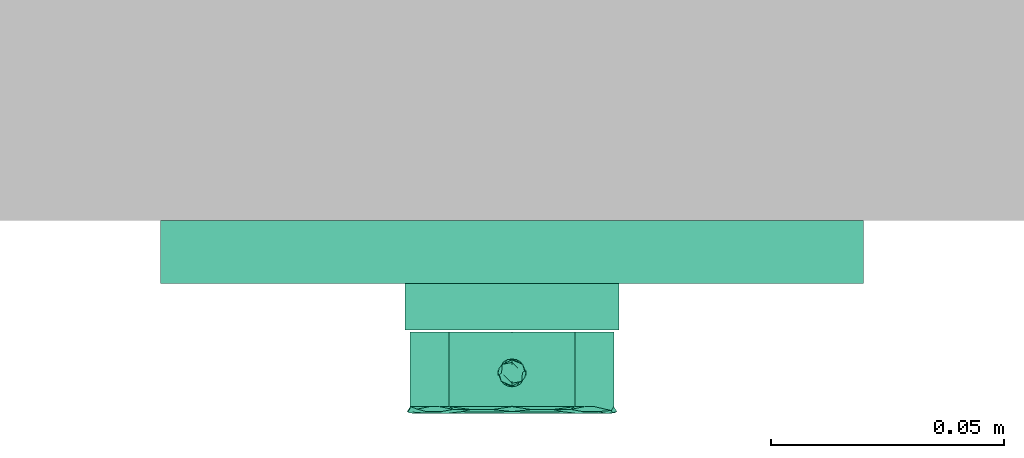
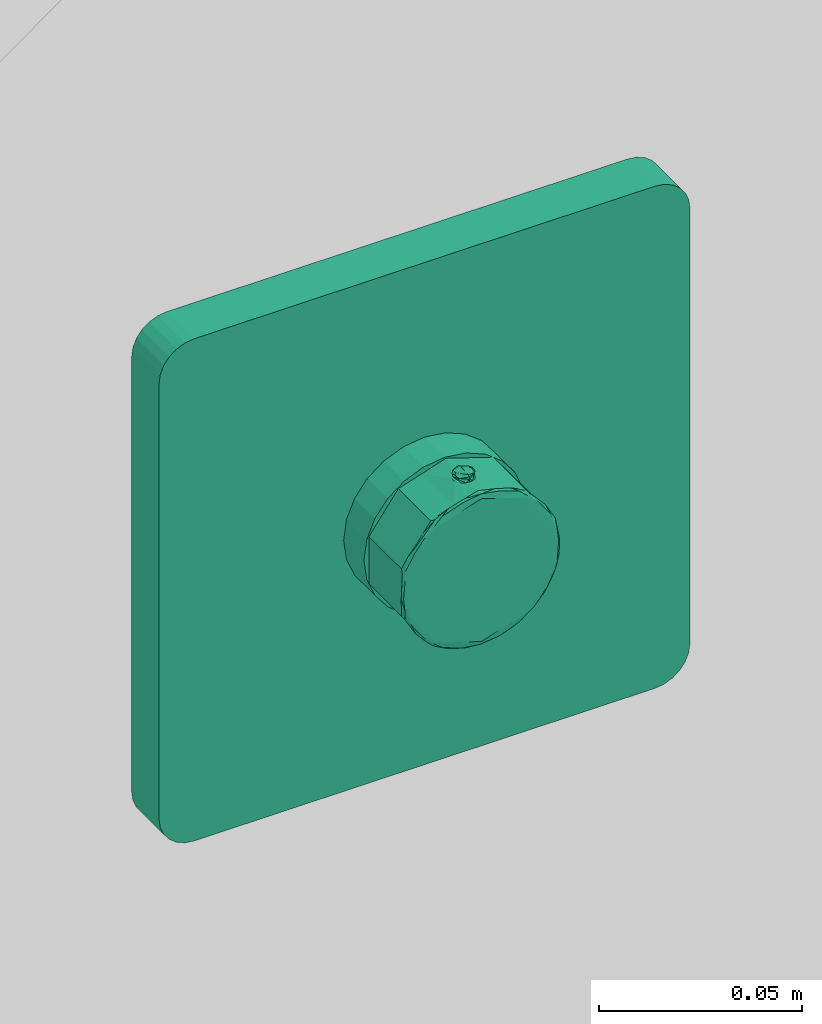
# One storey, part 2 of 2: 1 flow terminal.
"""IFC2X3 building model written with IfcOpenShell, lengths in millimetres."""

import ifcopenshell
import ifcopenshell.guid

model = None  # the IFC model being written
_history = None  # IfcOwnerHistory: only IFC2X3 demands one
_inside = {}  # id of a spatial element -> (the spatial element, [elements in it])
_under = {}  # id of a project, library or spatial element -> (it, [spatial elements below it])
_declared = {}  # id of a project -> (the project, [libraries it declares])
_typed = {}  # id of a type object -> (the type object, [elements of that type])
_made_of = {}  # id of a material, layer set ... -> (it, [elements and type objects made of it])


def new_model(schema):
    """Start an empty IFC model of exactly this schema.

    Asked for "IFC4X3", IfcOpenShell would pick the latest addendum, in which some entities
    have other attributes; the version numbers below select the first issue.
    IFC2X3 requires an IfcOwnerHistory on every rooted entity: one is made here for all.
    """
    global model, _history
    if schema == "IFC4X3":
        model = ifcopenshell.file(schema_version=(4, 3, 0, 0))
    else:
        model = ifcopenshell.file(schema=schema)
    _inside.clear()
    _under.clear()
    _declared.clear()
    _typed.clear()
    _made_of.clear()
    _history = None
    if model.schema == "IFC2X3":
        org = make("IfcOrganization", Name="unknown")
        user = make(
            "IfcPersonAndOrganization",
            ThePerson=make("IfcPerson", FamilyName="unknown"),
            TheOrganization=org,
        )
        app = make(
            "IfcApplication",
            ApplicationDeveloper=org,
            Version="unknown",
            ApplicationFullName="unknown",
            ApplicationIdentifier="unknown",
        )
        _history = make(
            "IfcOwnerHistory",
            OwningUser=user,
            OwningApplication=app,
            ChangeAction="ADDED",
            CreationDate=0,
        )
    return model


def make(cls, **values):
    """One entity of the class cls with the attributes given. An attribute that is None is left unset."""
    return model.create_entity(
        cls, **{name: value for name, value in values.items() if value is not None}
    )


def entity(cls, *values):
    """Any entity or typed value of the class cls, its attributes in the order of the schema. None: left unset."""
    e = model.create_entity(cls)
    for i, value in enumerate(values):
        if value is not None:
            e[i] = value
    return e


def rooted(cls, **values):
    """An entity with a GlobalId (a new one), such as an element, a storey or a relation."""
    return make(cls, GlobalId=ifcopenshell.guid.new(), OwnerHistory=_history, **values)


def si_unit(unit_type, name, prefix=None):
    """IfcSIUnit, for example si_unit("LENGTHUNIT", "METRE", prefix="MILLI")."""
    return make("IfcSIUnit", UnitType=unit_type, Prefix=prefix, Name=name)


def converted_unit(unit_type, name, factor, base, dimensions=None, offset=None):
    """IfcConversionBasedUnit, such as the inch: factor (a typed value) times the base unit."""
    return make(
        "IfcConversionBasedUnit"
        if offset is None
        else "IfcConversionBasedUnitWithOffset",
        ConversionOffset=offset,
        Dimensions=None
        if dimensions is None
        else entity("IfcDimensionalExponents", *dimensions),
        UnitType=unit_type,
        Name=name,
        ConversionFactor=make(
            "IfcMeasureWithUnit", ValueComponent=factor, UnitComponent=base
        ),
    )


def derived_unit(unit_type, elements):
    """IfcDerivedUnit: a product of units, each with its exponent."""
    return make(
        "IfcDerivedUnit",
        Elements=[
            make("IfcDerivedUnitElement", Unit=unit, Exponent=power)
            for unit, power in elements
        ],
        UnitType=unit_type,
    )


def assignment(units):
    """IfcUnitAssignment: the units of a project."""
    return None if units is None else make("IfcUnitAssignment", Units=units)


def point(xyz):
    """IfcCartesianPoint."""
    return None if xyz is None else make("IfcCartesianPoint", Coordinates=xyz)


def direction(xyz):
    """IfcDirection."""
    return None if xyz is None else make("IfcDirection", DirectionRatios=xyz)


def frame(location, z_axis=None, x_axis=None):
    """IfcAxis2Placement3D, a coordinate frame: its origin and axes. An axis left out is left unset."""
    return make(
        "IfcAxis2Placement3D",
        Location=point(location),
        Axis=direction(z_axis),
        RefDirection=direction(x_axis),
    )


def origin():
    """The frame at (0, 0, 0) with its axes left unset."""
    return frame((0.0, 0.0, 0.0))


def place(relative_to, where):
    """IfcLocalPlacement: puts the frame where relative to a parent placement (None: the world)."""
    return make(
        "IfcLocalPlacement", PlacementRelTo=relative_to, RelativePlacement=where
    )


def context(
    kind, dimensions, precision=None, world=None, true_north=None, identifier=None
):
    """IfcGeometricRepresentationContext, for example the 3D "Model" context."""
    return make(
        "IfcGeometricRepresentationContext",
        ContextIdentifier=identifier,
        ContextType=kind,
        CoordinateSpaceDimension=dimensions,
        Precision=precision,
        WorldCoordinateSystem=world,
        TrueNorth=true_north,
    )


def subcontext(parent, identifier, kind, view, scale=None):
    """IfcGeometricRepresentationSubContext, for example "Body" below "Model"."""
    return make(
        "IfcGeometricRepresentationSubContext",
        ContextIdentifier=identifier,
        ContextType=kind,
        ParentContext=parent,
        TargetScale=scale,
        TargetView=view,
    )


def project(units=None, contexts=None):
    """IfcProject with its units and contexts."""
    return rooted(
        "IfcProject",
        Name="project",
        RepresentationContexts=contexts,
        UnitsInContext=assignment(units),
    )


def spatial(cls, under=None, at=None, **own):
    """A site, building, storey or space (cls), placed at a placement, below another one or the project."""
    s = rooted(cls, ObjectPlacement=at, **own)
    if under is not None:
        _under.setdefault(under.id(), (under, []))[1].append(s)
    return s


def faces_of(points, faces, orient=None, outer=None):
    """IfcFace entities. A face is a list of loops; a loop is a list of indices into points, from 0.

    orient and outer hold one flag for each loop. By default every Orientation is true, the
    first loop of a face is its IfcFaceOuterBound and the others are IfcFaceBound.
    """
    made = []
    for i, loops in enumerate(faces):
        bounds = []
        for j, loop in enumerate(loops):
            is_outer = j == 0 if outer is None else outer[i][j]
            bounds.append(
                make(
                    "IfcFaceOuterBound" if is_outer else "IfcFaceBound",
                    Bound=make("IfcPolyLoop", Polygon=[points[k] for k in loop]),
                    Orientation=True if orient is None else orient[i][j],
                )
            )
        made.append(make("IfcFace", Bounds=bounds))
    return made


def face_set(faces, orient=None, outer=None):
    """The faces of one IfcConnectedFaceSet. surface_model builds it on its shared points."""
    return ("IfcConnectedFaceSet", faces, orient, outer)


def surface_model(cls, points, shells):
    """IfcFaceBasedSurfaceModel or IfcShellBasedSurfaceModel (cls): surfaces that need not close."""
    shared = [point(p) for p in points]
    made = [make(c, CfsFaces=faces_of(shared, fs, o, b)) for c, fs, o, b in shells]
    if cls == "IfcFaceBasedSurfaceModel":
        return make(cls, FbsmFaces=made)
    return make(cls, SbsmBoundary=made)


def shape(context_of_items, identifier, shape_type, items):
    """IfcShapeRepresentation: the items that make up one representation, for example the "Body"."""
    return make(
        "IfcShapeRepresentation",
        ContextOfItems=context_of_items,
        RepresentationIdentifier=identifier,
        RepresentationType=shape_type,
        Items=items,
    )


def source(mapping_origin, context_of_items, identifier, shape_type, items):
    """IfcRepresentationMap: a shape defined once, which mapped items show again and again."""
    return make(
        "IfcRepresentationMap",
        MappingOrigin=mapping_origin,
        MappedRepresentation=shape(context_of_items, identifier, shape_type, items),
    )


def transform(
    local_origin,
    x_axis=None,
    y_axis=None,
    z_axis=None,
    scale=None,
    scale2=None,
    scale3=None,
    uniform=True,
):
    """IfcCartesianTransformationOperator3D, or its non-uniform kind. x_axis, y_axis, z_axis: its Axis1, 2, 3."""
    if uniform:
        return make(
            "IfcCartesianTransformationOperator3D",
            Axis1=direction(x_axis),
            Axis2=direction(y_axis),
            LocalOrigin=point(local_origin),
            Scale=scale,
            Axis3=direction(z_axis),
        )
    return make(
        "IfcCartesianTransformationOperator3DnonUniform",
        Axis1=direction(x_axis),
        Axis2=direction(y_axis),
        LocalOrigin=point(local_origin),
        Scale=scale,
        Axis3=direction(z_axis),
        Scale2=scale2,
        Scale3=scale3,
    )


def mapped(mapping_source, mapping_target):
    """IfcMappedItem: shows the shape of a source again, moved by a transform."""
    return make(
        "IfcMappedItem", MappingSource=mapping_source, MappingTarget=mapping_target
    )


def material(Name=None, Category=None):
    """IfcMaterial."""
    return make("IfcMaterial", Name=Name, Category=Category)


def made_of(thing, what):
    """Note that an element or type object is made of a material, layer set ...; save() writes the relation."""
    if what is not None:
        _made_of.setdefault(what.id(), (what, []))[1].append(thing)
    return thing


def type_object(cls, material=None, **own):
    """A type object (cls), such as IfcWallType, which elements share."""
    return made_of(rooted(cls, **own), material)


def type_shapes(of_type, sources):
    """Give a type object the sources (RepresentationMaps) that its elements show as mapped items."""
    of_type.RepresentationMaps = sources


def element(
    cls,
    number,
    at=None,
    inside=None,
    cuts=None,
    type_object=None,
    material=None,
    context=None,
    identifier="Body",
    shape_type=None,
    held_by="IfcProductDefinitionShape",
    body=None,
    shapes=None,
    **own,
):
    """One element of the class cls, such as IfcWall. Its Tag is "e" and its number.

    at: its placement. inside: the storey or other place that contains it. cuts: it is an
    opening in that element (IfcRelVoidsElement). A single representation is given by context,
    identifier, shape_type and body (its items); several are given by shapes. held_by: the class
    of the entity that holds the representations. save() writes the other relations.
    """
    e = rooted(cls, Tag="e%d" % number, ObjectPlacement=at, **own)
    if body is not None:
        shapes = [shape(context, identifier, shape_type, body)]
    if shapes is not None:
        e.Representation = make(held_by, Representations=shapes)
    if inside is not None:
        _inside.setdefault(inside.id(), (inside, []))[1].append(e)
    if cuts is not None:
        rooted(
            "IfcRelVoidsElement", RelatingBuildingElement=cuts, RelatedOpeningElement=e
        )
    if type_object is not None:
        _typed.setdefault(type_object.id(), (type_object, []))[1].append(e)
    return made_of(e, material)


def aggregate(whole, parts):
    """IfcRelAggregates: a whole, such as a stair, and the parts it consists of."""
    return rooted("IfcRelAggregates", RelatingObject=whole, RelatedObjects=parts)


def save(model, path):
    """Write the relations noted so far, then the file.

    IfcRelAggregates (storeys below a building ...), IfcRelContainedInSpatialStructure (elements
    in a storey), IfcRelDefinesByType, IfcRelAssociatesMaterial and IfcRelDeclares: one each for
    every whole, place, type object, material and project.
    """
    for whole, parts in _under.values():
        aggregate(whole, parts)
    for where, things in _inside.values():
        rooted(
            "IfcRelContainedInSpatialStructure",
            RelatedElements=things,
            RelatingStructure=where,
        )
    for kind, things in _typed.values():
        rooted("IfcRelDefinesByType", RelatedObjects=things, RelatingType=kind)
    for what, things in _made_of.values():
        rooted("IfcRelAssociatesMaterial", RelatedObjects=things, RelatingMaterial=what)
    for by, libraries in _declared.values():
        rooted("IfcRelDeclares", RelatingContext=by, RelatedDefinitions=libraries)
    model.write(path)


model = new_model("IFC2X3")

# Units and contexts
model_context = context("Model", 3, precision=0.01, world=origin(), true_north=direction((6.12303176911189e-17, 1.0)))
body_context = subcontext(model_context, "Body", "Model", "MODEL_VIEW")
ifc_project = project(units=[si_unit("LENGTHUNIT", "METRE", prefix="MILLI"), si_unit("AREAUNIT", "SQUARE_METRE"), si_unit("VOLUMEUNIT", "CUBIC_METRE"), converted_unit("PLANEANGLEUNIT", "DEGREE", entity("IfcRatioMeasure", 0.0174532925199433), si_unit("PLANEANGLEUNIT", "RADIAN"), dimensions=[0, 0, 0, 0, 0, 0, 0]), si_unit("MASSUNIT", "GRAM", prefix="KILO"), derived_unit("MASSDENSITYUNIT", [(si_unit("MASSUNIT", "GRAM", prefix="KILO"), 1), (si_unit("LENGTHUNIT", "METRE"), -3)]), derived_unit("MOMENTOFINERTIAUNIT", [(si_unit("LENGTHUNIT", "METRE"), 4)]), si_unit("TIMEUNIT", "SECOND"), si_unit("FREQUENCYUNIT", "HERTZ"), si_unit("THERMODYNAMICTEMPERATUREUNIT", "DEGREE_CELSIUS"), derived_unit("THERMALTRANSMITTANCEUNIT", [(si_unit("MASSUNIT", "GRAM", prefix="KILO"), 1), (si_unit("THERMODYNAMICTEMPERATUREUNIT", "KELVIN"), -1), (si_unit("TIMEUNIT", "SECOND"), -3)]), derived_unit("VOLUMETRICFLOWRATEUNIT", [(si_unit("LENGTHUNIT", "METRE"), 3), (si_unit("TIMEUNIT", "SECOND"), -1)]), si_unit("ELECTRICCURRENTUNIT", "AMPERE"), si_unit("ELECTRICVOLTAGEUNIT", "VOLT"), si_unit("POWERUNIT", "WATT"), si_unit("FORCEUNIT", "NEWTON", prefix="KILO"), si_unit("ILLUMINANCEUNIT", "LUX"), si_unit("LUMINOUSFLUXUNIT", "LUMEN"), si_unit("LUMINOUSINTENSITYUNIT", "CANDELA"), derived_unit("USERDEFINED", [(si_unit("MASSUNIT", "GRAM", prefix="KILO"), -1), (si_unit("LENGTHUNIT", "METRE"), -2), (si_unit("TIMEUNIT", "SECOND"), 3), (si_unit("LUMINOUSFLUXUNIT", "LUMEN"), 1)]), derived_unit("LINEARVELOCITYUNIT", [(si_unit("LENGTHUNIT", "METRE"), 1), (si_unit("TIMEUNIT", "SECOND"), -1)]), si_unit("PRESSUREUNIT", "PASCAL"), derived_unit("USERDEFINED", [(si_unit("LENGTHUNIT", "METRE"), -2), (si_unit("MASSUNIT", "GRAM", prefix="KILO"), 1), (si_unit("TIMEUNIT", "SECOND"), -2)]), derived_unit("LINEARFORCEUNIT", [(si_unit("MASSUNIT", "GRAM", prefix="KILO"), 1), (si_unit("LENGTHUNIT", "METRE"), 1), (si_unit("TIMEUNIT", "SECOND"), -2), (si_unit("LENGTHUNIT", "METRE"), -1)]), derived_unit("PLANARFORCEUNIT", [(si_unit("MASSUNIT", "GRAM", prefix="KILO"), 1), (si_unit("LENGTHUNIT", "METRE"), 1), (si_unit("TIMEUNIT", "SECOND"), -2), (si_unit("LENGTHUNIT", "METRE"), -2)])], contexts=[model_context])

# Site, building, storey
site_placement = place(None, origin())
site = spatial("IfcSite", under=ifc_project, at=site_placement, Name="Default", CompositionType="ELEMENT")
building_placement = place(site_placement, origin())
building = spatial("IfcBuilding", under=site, at=building_placement, CompositionType="ELEMENT")
storey_placement = place(building_placement, origin())
storey = spatial("IfcBuildingStorey", under=building, at=storey_placement, Name="Level 1", CompositionType="ELEMENT", Elevation=0.0)

# Flow terminal
ifc_material = material(Name="Black")
distribution_element_type = type_object("IfcDistributionElementType", Name="FFAS0930-709440BF0_REVIT:Conceal Thermostatic Mixer with T_MB", material=ifc_material)
shared_shape = source(origin(), body_context, "Body", "SurfaceModel", [
    surface_model("IfcFaceBasedSurfaceModel", [(97.0138565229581, 13.5000000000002, 65.5952722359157), (99.3115662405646, 13.5000000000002, 71.1424341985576), (100.095272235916, 13.5000000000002, 77.0952722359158), (99.3115662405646, 13.5000000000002, 83.0481102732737), (97.0138565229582, 13.5000000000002, 88.5952722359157), (93.3587282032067, 13.5000000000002, 93.3587282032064), (88.5952722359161, 13.5000000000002, 97.0138565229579), (83.048110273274, 13.5000000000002, 99.3115662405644), (77.0952722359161, 13.5000000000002, 100.095272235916), (71.1424341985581, 13.5000000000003, 99.3115662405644), (65.595272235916, 13.5000000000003, 97.013856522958), (60.8318162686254, 13.5000000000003, 93.3587282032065), (57.1766879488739, 13.5000000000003, 88.5952722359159), (54.8789782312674, 13.5000000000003, 83.0481102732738), (54.095272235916, 13.5000000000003, 77.0952722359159), (54.8789782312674, 13.5000000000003, 71.1424341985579), (57.1766879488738, 13.5000000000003, 65.5952722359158), (60.8318162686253, 13.5000000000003, 60.8318162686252), (65.5952722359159, 13.5000000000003, 57.1766879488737), (71.1424341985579, 13.5000000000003, 54.8789782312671), (77.0952722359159, 13.5000000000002, 54.0952722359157), (83.0481102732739, 13.5000000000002, 54.8789782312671), (88.595272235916, 13.5000000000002, 57.1766879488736), (93.3587282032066, 13.5000000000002, 60.8318162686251), (77.0952722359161, 23.5000000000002, 100.095272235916), (83.0481102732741, 23.5000000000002, 99.3115662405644), (88.5952722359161, 23.5000000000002, 97.0138565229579), (93.3587282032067, 23.5000000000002, 93.3587282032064), (97.0138565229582, 23.5000000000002, 88.5952722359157), (99.3115662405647, 23.5000000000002, 83.0481102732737), (100.095272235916, 23.5000000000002, 77.0952722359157), (99.3115662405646, 23.5000000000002, 71.1424341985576), (97.0138565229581, 23.5000000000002, 65.5952722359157), (93.3587282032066, 23.5000000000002, 60.8318162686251), (88.595272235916, 23.5000000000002, 57.1766879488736), (83.0481102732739, 23.5000000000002, 54.8789782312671), (77.095272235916, 23.5000000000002, 54.0952722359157), (71.142434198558, 23.5000000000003, 54.8789782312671), (65.595272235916, 23.5000000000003, 57.1766879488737), (60.8318162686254, 23.5000000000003, 60.8318162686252), (57.1766879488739, 23.5000000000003, 65.5952722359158), (54.8789782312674, 23.5000000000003, 71.1424341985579), (54.095272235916, 23.5000000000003, 77.0952722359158), (54.8789782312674, 23.5000000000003, 83.0481102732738), (57.176687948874, 23.5000000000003, 88.5952722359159), (60.8318162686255, 23.5000000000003, 93.3587282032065), (65.5952722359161, 23.5000000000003, 97.013856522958), (71.1424341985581, 23.5000000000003, 99.3115662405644), (152.595272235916, 0.0, 11.5952722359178), (152.595272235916, 0.0, 142.595272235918), (152.254530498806, 0.0, 145.183462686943), (151.25552627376, 0.0, 147.595272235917), (149.666340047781, 0.0, 149.666340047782), (147.595272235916, 0.0, 151.255526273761), (145.183462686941, 0.0, 152.254530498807), (142.595272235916, 0.0, 152.595272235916), (11.595272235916, 0.0, 152.595272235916), (9.00708178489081, 0.0, 152.254530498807), (6.59527223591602, 0.0, 151.25552627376), (4.52420442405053, 0.0, 149.666340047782), (2.93501819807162, 0.0, 147.595272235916), (1.93601397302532, 0.0, 145.183462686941), (1.595272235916, 0.0, 142.595272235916), (1.595272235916, 0.0, 11.5952722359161), (1.93601397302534, 0.0, 9.00708178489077), (2.93501819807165, 0.0, 6.59527223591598), (4.52420442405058, 0.0, 4.52420442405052), (6.59527223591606, 0.0, 2.93501819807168), (9.00708178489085, 0.0, 1.93601397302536), (11.5952722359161, 0.0, 1.59527223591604), (142.595272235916, 0.0, 1.59527223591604), (145.183462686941, 0.0, 1.9360139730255), (147.595272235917, 0.0, 2.93501819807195), (149.666340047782, 0.0, 4.5242044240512), (151.255526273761, 0.0, 6.59527223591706), (152.254530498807, 0.0, 9.00708178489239), (152.595272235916, 13.5, 142.595272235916), (152.595272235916, 13.5, 11.5952722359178), (152.254530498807, 13.5, 9.00708178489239), (151.255526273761, 13.5, 6.59527223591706), (149.666340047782, 13.5, 4.5242044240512), (147.595272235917, 13.5, 2.93501819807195), (145.183462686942, 13.5, 1.9360139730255), (142.595272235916, 13.5, 1.5952722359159), (11.5952722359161, 13.5000000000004, 1.59527223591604), (9.00708178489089, 13.5000000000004, 1.93601397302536), (6.5952722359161, 13.5000000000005, 2.93501819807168), (4.52420442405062, 13.5000000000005, 4.52420442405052), (2.93501819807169, 13.5000000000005, 6.59527223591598), (1.93601397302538, 13.5000000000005, 9.00708178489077), (1.59527223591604, 13.5000000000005, 11.5952722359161), (1.59527223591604, 13.5000000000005, 142.595272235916), (1.93601397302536, 13.5000000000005, 145.183462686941), (2.93501819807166, 13.5000000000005, 147.595272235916), (4.52420442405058, 13.5000000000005, 149.666340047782), (6.59527223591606, 13.5000000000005, 151.25552627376), (9.00708178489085, 13.5000000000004, 152.254530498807), (11.5952722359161, 13.5000000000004, 152.595272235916), (142.595272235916, 13.5, 152.595272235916), (145.183462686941, 13.5, 152.254530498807), (147.595272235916, 13.5, 151.255526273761), (149.666340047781, 13.5, 149.666340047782), (151.25552627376, 13.5, 147.595272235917), (152.254530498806, 13.5, 145.183462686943), (77.0952731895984, 31.6203363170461, 102.02605398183), (74.8528501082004, 32.7500002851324, 101.819380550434), (77.0952731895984, 30.5075772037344, 101.819380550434), (77.0952731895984, 34.9924233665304, 101.819380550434), (77.0952731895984, 34.4856501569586, 101.913488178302), (77.0952731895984, 32.7500002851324, 102.095308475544), (77.0952731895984, 32.2355240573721, 102.063769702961), (77.0952731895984, 33.8796642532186, 102.02605398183), (79.3376962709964, 32.7500002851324, 101.819380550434), (77.0952731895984, 31.0143504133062, 101.913488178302), (77.0952731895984, 33.2644765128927, 102.063769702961), (74.4002887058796, 32.3520231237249, 101.538729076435), (74.7908898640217, 30.9321334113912, 101.203575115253), (77.0952731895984, 29.9618256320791, 101.464605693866), (77.0952731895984, 35.7499988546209, 100.8491636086), (74.3459588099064, 33.7447705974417, 101.23220708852), (77.0952731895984, 35.5381658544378, 101.464605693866), (77.0952731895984, 30.2799203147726, 101.671351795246), (77.0952731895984, 29.7500017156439, 100.8491636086), (75.0129602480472, 34.5649421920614, 101.496435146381), (74.0952746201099, 32.7500002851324, 100.8491636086), (79.7902485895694, 33.1479774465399, 101.538729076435), (79.3996565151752, 34.5678671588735, 101.203575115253), (79.8445875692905, 31.7552299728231, 101.23220708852), (77.0952731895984, 35.2200802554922, 101.671351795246), (79.1775861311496, 30.9350583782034, 101.496435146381), (80.095271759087, 32.7500002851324, 100.8491636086), (77.0952731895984, 29.7500017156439, 100.09528520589), (76.0685280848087, 29.9311679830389, 100.072321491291), (75.1663029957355, 30.4523752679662, 100.014258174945), (74.4977482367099, 34.2509533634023, 99.9481284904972), (74.4976210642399, 31.249274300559, 99.9481284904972), (74.1408386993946, 32.2290927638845, 99.9047445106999), (74.1409749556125, 33.2716617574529, 99.9047445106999), (76.068709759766, 35.5688961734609, 100.072321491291), (77.0952731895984, 35.7499988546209, 100.09528520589), (75.1673294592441, 35.0484791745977, 100.014330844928), (78.1218366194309, 35.5688961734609, 100.072321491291), (79.0232169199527, 35.0484791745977, 100.014330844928), (79.0242433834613, 30.4523752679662, 100.014258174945), (79.6927981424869, 34.2509533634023, 99.9481284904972), (80.0495714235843, 33.2716617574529, 99.9047445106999), (79.692925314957, 31.249274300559, 99.9481284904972), (78.1220182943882, 29.9311679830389, 100.072321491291), (80.0496985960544, 32.2290927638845, 99.9047445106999), (77.0952722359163, 41.4999999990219, 55.5952722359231), (64.4578893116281, 41.4999999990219, 59.7014068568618), (56.6475571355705, 41.4999999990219, 70.4514068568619), (56.6475571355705, 41.4999999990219, 83.7391376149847), (64.4578893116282, 41.4999999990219, 94.4891376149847), (77.0952722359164, 41.4999999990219, 98.5952722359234), (77.0952722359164, 41.4999999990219, 77.0952722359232), (89.7326551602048, 41.4999999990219, 94.4891376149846), (97.5429873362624, 41.4999999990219, 83.7391376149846), (97.5429873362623, 41.4999999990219, 70.4514068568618), (89.7326551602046, 41.4999999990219, 59.7014068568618), (77.0952731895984, 41.3362585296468, 98.9905561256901), (71.4823345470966, 41.5000021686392, 96.7715055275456), (77.0952731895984, 41.0606576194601, 99.6559224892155), (71.6933045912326, 41.1960417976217, 98.8395479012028), (57.2760795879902, 41.3769718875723, 86.8618633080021), (58.619411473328, 41.0558523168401, 90.0506948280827), (60.8613621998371, 41.390324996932, 92.0364021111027), (72.8452873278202, 40.6397439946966, 99.5533851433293), (70.3357384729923, 40.0000028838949, 97.8989803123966), (68.2704666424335, 40.6226937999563, 98.188279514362), (60.5527236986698, 41.5000021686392, 89.1141240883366), (63.9074153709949, 41.3712309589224, 94.8392106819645), (64.5118752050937, 40.6034998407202, 96.1961772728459), (63.576212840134, 40.0000028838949, 95.702675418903), (61.9923887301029, 41.0450335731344, 93.8756793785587), (59.3985881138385, 40.0000028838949, 89.9526630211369), (55.7643713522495, 40.843619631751, 84.9764406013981), (55.2209724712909, 40.0000028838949, 84.2026506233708), (77.0952731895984, 40.0000028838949, 100.09528520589), (60.8613621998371, 41.390324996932, 62.1541417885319), (58.619411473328, 41.0558523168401, 64.1398490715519), (58.3025067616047, 41.3814955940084, 65.4956529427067), (64.5118752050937, 40.6034998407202, 57.9943666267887), (66.1951391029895, 41.089198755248, 57.3760177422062), (68.2704666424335, 40.6226937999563, 56.0022643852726), (61.9923887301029, 41.0450335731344, 60.3148645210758), (71.6933045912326, 41.1960417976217, 55.3509959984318), (72.8452873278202, 40.6397439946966, 54.6371587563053), (63.9074153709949, 41.3712309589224, 59.3513332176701), (77.0952731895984, 41.3362585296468, 55.1999877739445), (77.0952731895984, 41.0606576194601, 54.5346214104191), (71.4823345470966, 41.5000021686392, 57.419038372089), (66.1951391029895, 41.089198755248, 96.8145261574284), (56.7163208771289, 40.5328191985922, 66.6450013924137), (55.8914893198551, 41.1930350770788, 69.844588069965), (60.5527236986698, 41.5000021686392, 65.076419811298), (61.4874050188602, 40.0000028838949, 92.8276328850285), (77.0952731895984, 40.0000028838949, 54.0952586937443), (70.3357384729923, 40.0000028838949, 56.2915635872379), (63.576212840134, 40.0000028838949, 58.4878684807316), (55.4838652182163, 41.3307265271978, 82.1391864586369), (55.0460104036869, 41.3850110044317, 78.1806344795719), (54.5467857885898, 41.0420904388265, 78.267111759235), (55.0906933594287, 40.6682669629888, 70.9636331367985), (55.2209724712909, 40.0000028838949, 69.9878932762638), (55.2209724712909, 40.0000028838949, 77.0953082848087), (54.7608988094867, 41.0580869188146, 73.8898353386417), (55.4541704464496, 41.4068029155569, 73.0252805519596), (56.6475569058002, 41.5000021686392, 77.0953082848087), (61.4874050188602, 40.0000028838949, 61.3629110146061), (59.3985881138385, 40.0000028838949, 64.2378808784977), (82.7082118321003, 41.5000021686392, 57.419038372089), (82.4972417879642, 41.1960417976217, 55.3509959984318), (96.9144667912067, 41.3769718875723, 67.3286805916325), (95.5711349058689, 41.0558523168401, 64.1398490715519), (93.3291841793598, 41.390324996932, 62.1541417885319), (81.3452590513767, 40.6397439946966, 54.6371587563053), (83.8547988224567, 40.0000028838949, 56.2915635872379), (85.9200797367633, 40.6226937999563, 56.0022643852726), (93.6378226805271, 41.5000021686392, 65.076419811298), (90.2831310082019, 41.3712309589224, 59.3513332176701), (89.6786711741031, 40.6034998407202, 57.9943666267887), (90.6143335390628, 40.0000028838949, 58.4878684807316), (92.198157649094, 41.0450335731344, 60.3148645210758), (94.7919491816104, 40.0000028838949, 64.2378808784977), (98.4261750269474, 40.843619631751, 69.2141032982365), (98.9695739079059, 40.0000028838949, 69.9878932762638), (93.3291841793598, 41.390324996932, 92.0364021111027), (95.5711349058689, 41.0558523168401, 90.0506948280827), (95.8880396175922, 41.3814955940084, 88.6948909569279), (89.6786711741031, 40.6034998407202, 96.1961772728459), (87.9954072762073, 41.089198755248, 96.8145261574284), (85.9200797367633, 40.6226937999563, 98.188279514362), (92.198157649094, 41.0450335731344, 93.8756793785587), (82.4972417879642, 41.1960417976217, 98.8395479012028), (81.3452590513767, 40.6397439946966, 99.5533851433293), (90.2831310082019, 41.3712309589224, 94.8392106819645), (82.7082118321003, 41.5000021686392, 96.7715055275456), (87.9954072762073, 41.089198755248, 57.3760177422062), (97.4742255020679, 40.5328191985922, 87.5455425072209), (98.2990570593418, 41.1930350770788, 84.3459558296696), (93.6378226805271, 41.5000021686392, 89.1141240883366), (92.7031413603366, 40.0000028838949, 61.3629110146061), (83.8547988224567, 40.0000028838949, 97.8989803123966), (90.6143335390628, 40.0000028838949, 95.702675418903), (98.7066811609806, 41.3307265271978, 72.0513574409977), (99.14453597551, 41.3850110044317, 76.0099094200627), (99.6437515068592, 41.0420904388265, 75.9234321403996), (99.0998530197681, 40.6682669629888, 83.2269107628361), (98.9695739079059, 40.0000028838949, 84.2026506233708), (98.9695739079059, 40.0000028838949, 77.0953082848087), (99.4296475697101, 41.0580869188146, 80.3007085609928), (98.7363759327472, 41.4068029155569, 81.165263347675), (97.5429894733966, 41.5000021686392, 77.0953082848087), (92.7031413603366, 40.0000028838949, 92.8276328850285), (94.7919491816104, 40.0000028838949, 89.9526630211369), (63.576212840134, 23.9999984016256, 58.4878684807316), (59.3985881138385, 23.9999984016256, 64.2378808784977), (67.8793022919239, 40.0000028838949, 57.0896980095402), (70.3357384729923, 23.9999984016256, 56.2915635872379), (73.7155103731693, 40.0000028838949, 98.997096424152), (55.2209724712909, 23.9999984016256, 69.9878932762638), (55.2209724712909, 23.9999984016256, 77.0953082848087), (63.576212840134, 23.9999984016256, 95.702675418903), (70.3357384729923, 23.9999984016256, 97.8989803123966), (55.2209724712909, 23.9999984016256, 84.2026506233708), (59.3985881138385, 23.9999984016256, 89.9526630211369), (77.0952731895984, 23.9999984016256, 100.09528520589), (72.1824008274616, 40.0000028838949, 55.6915275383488), (77.0952731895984, 23.9999984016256, 54.0952586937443), (83.8547988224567, 23.9999984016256, 56.2915635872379), (90.6143335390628, 23.9999984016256, 58.4878684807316), (98.9695739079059, 23.9999984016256, 77.0953082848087), (98.9695739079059, 23.9999984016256, 84.2026506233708), (94.7919491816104, 23.9999984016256, 64.2378808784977), (98.9695739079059, 23.9999984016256, 69.9878932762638), (94.7919491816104, 23.9999984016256, 89.9526630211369), (90.6143335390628, 23.9999984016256, 95.702675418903), (83.8547988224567, 23.9999984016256, 97.8989803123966), (80.4750360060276, 40.0000028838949, 98.997096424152), (77.0952722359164, 24.0, 77.0952722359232)], [face_set([[[0, 1, 2, 3, 4, 5, 6, 7, 8, 9, 10, 11, 12, 13, 14, 15, 16, 17, 18, 19, 20, 21, 22, 23]], [[24, 25, 26, 27, 28, 29, 30, 31, 32, 33, 34, 35, 36, 37, 38, 39, 40, 41, 42, 43, 44, 45, 46, 47]], [[41, 15, 14, 42]], [[40, 16, 15, 41]], [[18, 17, 39, 38]], [[40, 39, 17, 16]], [[19, 18, 38, 37]], [[20, 19, 37, 36]], [[35, 21, 20, 36]], [[34, 22, 21, 35]], [[0, 23, 33, 32]], [[34, 33, 23, 22]], [[1, 0, 32, 31]], [[2, 1, 31, 30]], [[29, 3, 2, 30]], [[28, 4, 3, 29]], [[6, 5, 27, 26]], [[28, 27, 5, 4]], [[7, 6, 26, 25]], [[8, 7, 25, 24]], [[47, 9, 8, 24]], [[46, 10, 9, 47]], [[12, 11, 45, 44]], [[46, 45, 11, 10]], [[13, 12, 44, 43]], [[14, 13, 43, 42]]]), face_set([[[48, 49, 50, 51, 52, 53, 54, 55, 56, 57, 58, 59, 60, 61, 62, 63, 64, 65, 66, 67, 68, 69, 70, 71, 72, 73, 74, 75]], [[76, 77, 78, 79, 80, 81, 82, 83, 84, 85, 86, 87, 88, 89, 90, 91, 92, 93, 94, 95, 96, 97, 98, 99, 100, 101, 102, 103]], [[57, 56, 97, 96]], [[58, 57, 96, 95]], [[59, 58, 95, 94]], [[60, 59, 94, 93]], [[61, 60, 93, 92]], [[62, 61, 92, 91]], [[63, 62, 91, 90]], [[64, 63, 90, 89]], [[65, 64, 89, 88]], [[66, 65, 88, 87]], [[67, 66, 87, 86]], [[68, 67, 86, 85]], [[69, 68, 85, 84]], [[70, 69, 84, 83]], [[71, 70, 83, 82]], [[72, 71, 82, 81]], [[73, 72, 81, 80]], [[74, 73, 80, 79]], [[75, 74, 79, 78]], [[48, 75, 78, 77]], [[49, 48, 77, 76]], [[50, 49, 76, 103]], [[51, 50, 103, 102]], [[52, 51, 102, 101]], [[53, 52, 101, 100]], [[54, 53, 100, 99]], [[55, 54, 99, 98]], [[56, 55, 98, 97]]]), face_set([[[104, 105, 106]], [[107, 105, 108]], [[109, 110, 104, 111]], [[104, 108, 105]], [[104, 108, 111]], [[111, 112, 107]], [[106, 112, 113]], [[104, 111, 114, 109]], [[111, 113, 112]], [[104, 113, 111]], [[115, 116, 117]], [[118, 119, 120]], [[115, 121, 105]], [[122, 117, 116]], [[117, 121, 115]], [[123, 115, 105]], [[120, 123, 107]], [[124, 116, 122]], [[118, 119, 124]], [[116, 119, 124]], [[115, 116, 119]], [[106, 105, 121]], [[115, 123, 119]], [[123, 105, 107]], [[123, 119, 120]], [[125, 126, 120]], [[122, 127, 117]], [[125, 128, 112]], [[118, 120, 126]], [[120, 128, 125]], [[129, 125, 112]], [[117, 129, 106]], [[130, 126, 118]], [[122, 127, 130]], [[126, 127, 130]], [[125, 126, 127]], [[107, 112, 128]], [[125, 129, 127]], [[129, 112, 106]], [[129, 127, 117]], [[131, 122, 132]], [[133, 132, 124]], [[133, 134, 135]], [[136, 135, 137]], [[122, 124, 132]], [[138, 124, 118]], [[138, 118, 139]], [[135, 134, 137]], [[133, 140, 134]], [[124, 138, 140]], [[140, 124, 133]], [[139, 118, 141]], [[142, 141, 130]], [[142, 143, 144]], [[145, 144, 146]], [[118, 130, 141]], [[147, 130, 122]], [[147, 122, 131]], [[145, 146, 148]], [[144, 143, 146]], [[130, 147, 143]], [[143, 130, 142]], [[149, 150, 151, 152, 153, 154, 155]], [[155, 154, 156, 157, 158, 159, 149]], [[160, 154, 161]], [[162, 160, 163]], [[161, 163, 160]], [[164, 165, 166]], [[163, 167, 162]], [[168, 167, 169]], [[164, 166, 170]], [[171, 161, 153]], [[169, 172, 173]], [[166, 165, 174]], [[175, 176, 177]], [[167, 178, 162]], [[179, 180, 181]], [[182, 183, 184]], [[185, 183, 182]], [[186, 187, 184]], [[173, 168, 169]], [[185, 179, 188]], [[189, 190, 186]], [[190, 187, 186]], [[191, 149, 189]], [[163, 161, 192]], [[191, 183, 188]], [[180, 193, 194]], [[181, 151, 195]], [[196, 173, 172]], [[169, 163, 192]], [[189, 186, 191]], [[191, 186, 183]], [[187, 197, 198]], [[184, 199, 182]], [[178, 167, 168]], [[163, 169, 167]], [[169, 192, 172]], [[176, 175, 165]], [[192, 174, 172]], [[166, 171, 153]], [[174, 165, 196]], [[165, 175, 196]], [[174, 196, 172]], [[200, 164, 152]], [[164, 170, 152]], [[165, 164, 176]], [[201, 202, 200]], [[203, 204, 205]], [[200, 176, 164]], [[177, 176, 202]], [[206, 207, 194]], [[176, 200, 202]], [[152, 208, 201]], [[171, 166, 174]], [[153, 170, 166]], [[197, 187, 190]], [[184, 187, 198]], [[199, 184, 198]], [[186, 184, 183]], [[193, 203, 194]], [[182, 199, 209]], [[210, 180, 209]], [[204, 193, 210]], [[195, 179, 181]], [[209, 180, 185]], [[182, 209, 185]], [[185, 180, 179]], [[180, 210, 193]], [[203, 193, 204]], [[207, 151, 194]], [[195, 150, 179]], [[188, 179, 150]], [[205, 177, 202]], [[206, 194, 203]], [[205, 202, 206]], [[205, 206, 203]], [[201, 207, 206]], [[201, 206, 202]], [[208, 151, 207]], [[180, 194, 181]], [[151, 181, 194]], [[174, 192, 171]], [[161, 171, 192]], [[191, 188, 150]], [[183, 185, 188]], [[152, 201, 200]], [[207, 201, 208]], [[189, 149, 211]], [[190, 189, 212]], [[211, 212, 189]], [[213, 214, 215]], [[212, 216, 190]], [[217, 216, 218]], [[213, 215, 219]], [[220, 211, 159]], [[218, 221, 222]], [[215, 214, 223]], [[224, 225, 226]], [[216, 197, 190]], [[227, 228, 229]], [[230, 231, 232]], [[233, 231, 230]], [[234, 235, 232]], [[222, 217, 218]], [[233, 227, 236]], [[160, 162, 234]], [[162, 235, 234]], [[237, 154, 160]], [[212, 211, 238]], [[237, 231, 236]], [[228, 239, 240]], [[229, 157, 241]], [[242, 222, 221]], [[218, 212, 238]], [[160, 234, 237]], [[237, 234, 231]], [[235, 178, 243]], [[232, 244, 230]], [[197, 216, 217]], [[212, 218, 216]], [[218, 238, 221]], [[225, 224, 214]], [[238, 223, 221]], [[215, 220, 159]], [[223, 214, 242]], [[214, 224, 242]], [[223, 242, 221]], [[245, 213, 158]], [[213, 219, 158]], [[214, 213, 225]], [[246, 247, 245]], [[248, 249, 250]], [[245, 225, 213]], [[226, 225, 247]], [[251, 252, 240]], [[225, 245, 247]], [[158, 253, 246]], [[220, 215, 223]], [[159, 219, 215]], [[178, 235, 162]], [[232, 235, 243]], [[244, 232, 243]], [[234, 232, 231]], [[239, 248, 240]], [[230, 244, 254]], [[255, 228, 254]], [[249, 239, 255]], [[241, 227, 229]], [[254, 228, 233]], [[230, 254, 233]], [[233, 228, 227]], [[228, 255, 239]], [[248, 239, 249]], [[252, 157, 240]], [[241, 156, 227]], [[236, 227, 156]], [[250, 226, 247]], [[251, 240, 248]], [[250, 247, 251]], [[250, 251, 248]], [[246, 252, 251]], [[246, 251, 247]], [[253, 157, 252]], [[228, 240, 229]], [[157, 229, 240]], [[223, 238, 220]], [[211, 220, 238]], [[237, 236, 156]], [[231, 233, 236]], [[158, 246, 245]], [[252, 246, 253]], [[199, 256, 257, 210]], [[139, 178, 138]], [[256, 258, 259]], [[138, 178, 260]], [[168, 137, 260]], [[204, 261, 262]], [[173, 263, 264, 168]], [[177, 265, 266, 175]], [[131, 132, 267]], [[268, 197, 269]], [[267, 132, 133]], [[262, 265, 205, 204]], [[138, 260, 140]], [[175, 266, 263, 173]], [[260, 134, 140]], [[135, 264, 133]], [[136, 264, 135]], [[133, 264, 267]], [[137, 134, 260]], [[258, 268, 259]], [[258, 256, 199]], [[264, 136, 168]], [[210, 257, 261, 204]], [[265, 177, 205]], [[268, 269, 259]], [[136, 137, 168]], [[270, 217, 222, 271]], [[272, 250, 249, 273]], [[274, 224, 226, 275]], [[276, 255, 244, 277]], [[271, 222, 224, 274]], [[269, 197, 217, 270]], [[255, 276, 273, 249]], [[275, 226, 250, 272]], [[148, 146, 278]], [[277, 244, 243, 278]], [[278, 243, 148]], [[279, 144, 145]], [[141, 178, 139]], [[141, 142, 279]], [[178, 141, 279]], [[143, 278, 146]], [[144, 279, 142]], [[143, 267, 278]], [[243, 279, 145]], [[147, 131, 267]], [[147, 267, 143]], [[148, 243, 145]], [[267, 280, 269, 256, 261, 265, 263]], [[269, 280, 267, 277, 273, 275, 271]]])]),
])
type_shapes(distribution_element_type, [shared_shape])
flow_terminal_placement = place(storey_placement, frame((784.802340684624, 3034.83382976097, 1976.4565082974), z_axis=(0.0, 0.0, 1.0), x_axis=(-1.0, 0.0, 0.0)))
element("IfcFlowTerminal", 1, at=flow_terminal_placement, inside=storey, type_object=distribution_element_type, material=ifc_material, Name="FFAS0930-709440BF0_REVIT:Conceal Thermostatic Mixer with T_MB", ObjectType="FFAS0930-709440BF0_REVIT:Conceal Thermostatic Mixer with T_MB", context=body_context, shape_type="MappedRepresentation", body=[
    mapped(shared_shape, transform((0.0, 0.0, 0.0), scale=1.0)),
])

save(model, "model.ifc")
